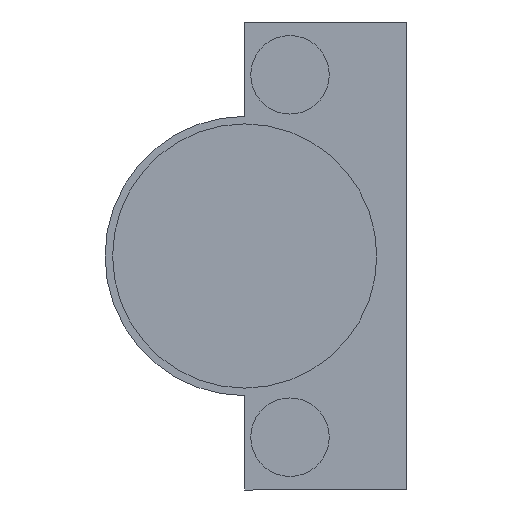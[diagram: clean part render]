
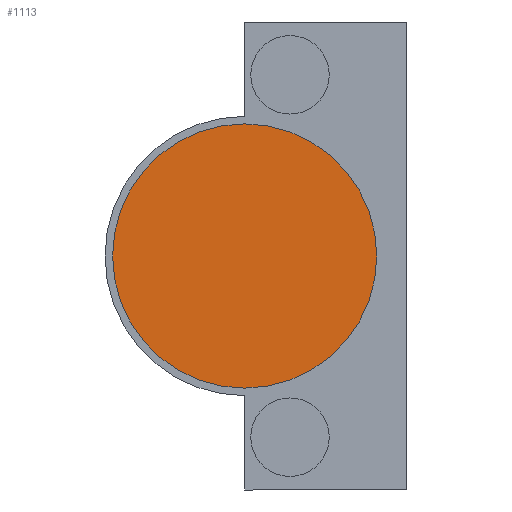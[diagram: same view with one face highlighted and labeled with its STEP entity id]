
A CAD part, front view. The second image highlights one B-rep face of the part: STEP entity #1113.
In plain terms, the highlighted planar face has unit normal (0, -1, 0).
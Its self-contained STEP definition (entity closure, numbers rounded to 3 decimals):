
#35 = AXIS2_PLACEMENT_3D ( 'NONE', #744, #753, #754 ) ;
#42 = EDGE_CURVE ( 'NONE', #442, #462, #377, .T. ) ;
#47 = AXIS2_PLACEMENT_3D ( 'NONE', #579, #580, #581 ) ;
#76 = EDGE_CURVE ( 'NONE', #462, #442, #348, .T. ) ;
#78 = AXIS2_PLACEMENT_3D ( 'NONE', #538, #539, #540 ) ;
#290 = FACE_OUTER_BOUND ( 'NONE', #1240, .T. ) ;
#348 = CIRCLE ( 'NONE', #47, 17.5 ) ;
#377 = CIRCLE ( 'NONE', #78, 17.5 ) ;
#442 = VERTEX_POINT ( 'NONE', #656 ) ;
#462 = VERTEX_POINT ( 'NONE', #676 ) ;
#538 = CARTESIAN_POINT ( 'NONE',  ( 2.5, -12.6, 0. ) ) ;
#539 = DIRECTION ( 'NONE',  ( 0., -1., 0. ) ) ;
#540 = DIRECTION ( 'NONE',  ( 1., 0., 0. ) ) ;
#579 = CARTESIAN_POINT ( 'NONE',  ( 2.5, -12.6, 0. ) ) ;
#580 = DIRECTION ( 'NONE',  ( 0., -1., 0. ) ) ;
#581 = DIRECTION ( 'NONE',  ( 1., 0., 0. ) ) ;
#656 = CARTESIAN_POINT ( 'NONE',  ( 20., -12.6, 0. ) ) ;
#676 = CARTESIAN_POINT ( 'NONE',  ( -15., -12.6, 0. ) ) ;
#741 = PLANE ( 'NONE',  #35 ) ;
#744 = CARTESIAN_POINT ( 'NONE',  ( 2.5, -12.6, 0. ) ) ;
#753 = DIRECTION ( 'NONE',  ( 0., -1., 0. ) ) ;
#754 = DIRECTION ( 'NONE',  ( 1., 0., 0. ) ) ;
#1113 = ADVANCED_FACE ( 'NONE', ( #290 ), #741, .T. ) ;
#1210 = ORIENTED_EDGE ( 'NONE', *, *, #42, .T. ) ;
#1215 = ORIENTED_EDGE ( 'NONE', *, *, #76, .T. ) ;
#1240 = EDGE_LOOP ( 'NONE', ( #1215, #1210 ) ) ;
